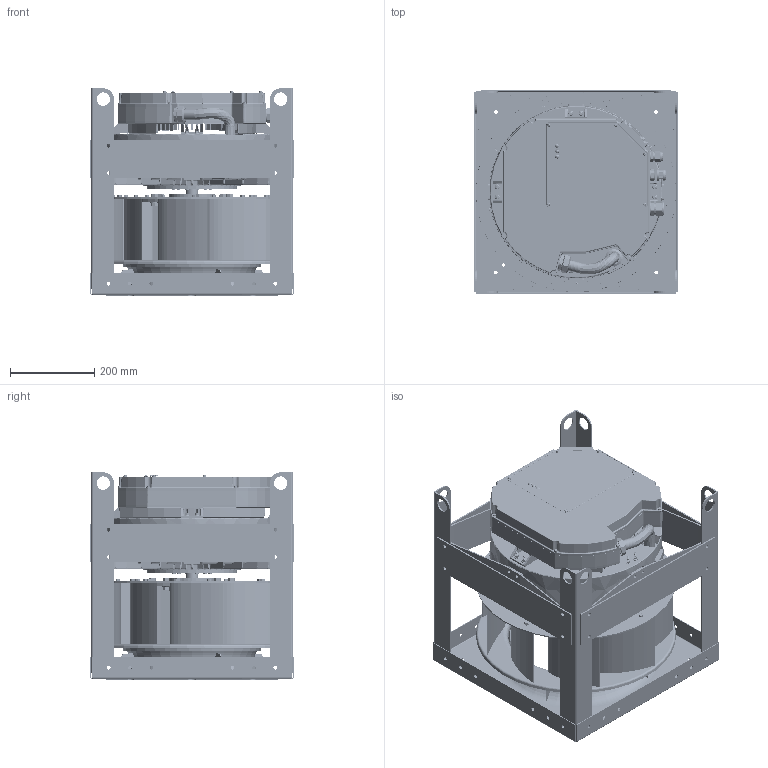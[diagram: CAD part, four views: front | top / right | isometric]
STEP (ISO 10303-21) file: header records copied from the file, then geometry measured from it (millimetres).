
FILE_DESCRIPTION (( 'STEP AP214' ), '1' );
FILE_NAME ('655768.STEP', '2026-04-07T20:24:27', ( '' ), ( '' ), 'SwSTEP 2.0', 'SolidWorks 2023', '' );
FILE_SCHEMA (( 'AUTOMOTIVE_DESIGN' ));
Length unit declared in the file: inch
Products named in the file (19): 651600_651600; SXP18 INLET ASSY_687066; SXP18 BAFFLE_682897; 941153_941153; 941044_941044; SXP18 BLADE_767250; 651601_651601; SXP18 WHEEL WELDMENT_687053; 925517CS_925517CS; SXP18 FP_651356; 941156_941156; 941768_941768; SXPI STRAP_651580; 651595_651595; 941770_BUSHING  TB2012 X 1.125; SXP18 WHEEL ASSY_655591; SXP18-9 BP_682875; 655768; SXP18 INLET_651354
Assembly tree (83 placements, depth 4):
  655768
    651595_651595
    SXP18 WHEEL ASSY_655591
      SXP18 WHEEL WELDMENT_687053
        SXP18 FP_651356
        SXP18 BLADE_767250  x9
        SXP18-9 BP_682875
        941044_941044  x36
      941153_941153  x6
      941156_941156  x6
      941768_941768
    SXP18 INLET ASSY_687066
      SXP18 INLET_651354
      SXP18 BAFFLE_682897  x4
    925517CS_925517CS
    941770_BUSHING  TB2012 X 1.125
    651601_651601  x4
    651600_651600  x4
    SXPI STRAP_651580  x4
Bounding box: 485.39 x 485.39 x 491.8 mm (x, y, z)
Volume: 4741409.2 mm3; surface area: 4444761.2 mm2
Topology: 79 solids, 301 shells, 7583 faces, 22573 edges, 15168 vertices
Faces by surface type: plane 2782, cylinder 1989, bspline 1552, cone 847, torus 408, sphere 5
Full cylindrical faces by diameter (mm): 2.9 x2, 3.962 x8, 4.762 x9, 4.763 x9, 5.105 x16, 6 x144, 6.35 x36, 7 x5, 7.137 x16, 7.544 x1, 7.937 x3, 7.938 x1, 8.5 x1, 8.738 x87, 9 x5, 9.525 x12, 9.73 x8, 10.1 x1, 10.2 x1, 11.8 x7, 12.5 x1, 12.6 x1, 13 x7, 13.208 x36, 14 x1, 14.097 x6, 17.462 x4, 19.05 x6, 20.32 x8, 20.637 x6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
Entity records: 318273 total; most frequent: CARTESIAN_POINT 215009, ORIENTED_EDGE 20955, DIRECTION 18418, EDGE_CURVE 12891, VERTEX_POINT 9108, AXIS2_PLACEMENT_3D 7284, EDGE_LOOP 5160, FACE_OUTER_BOUND 4449
